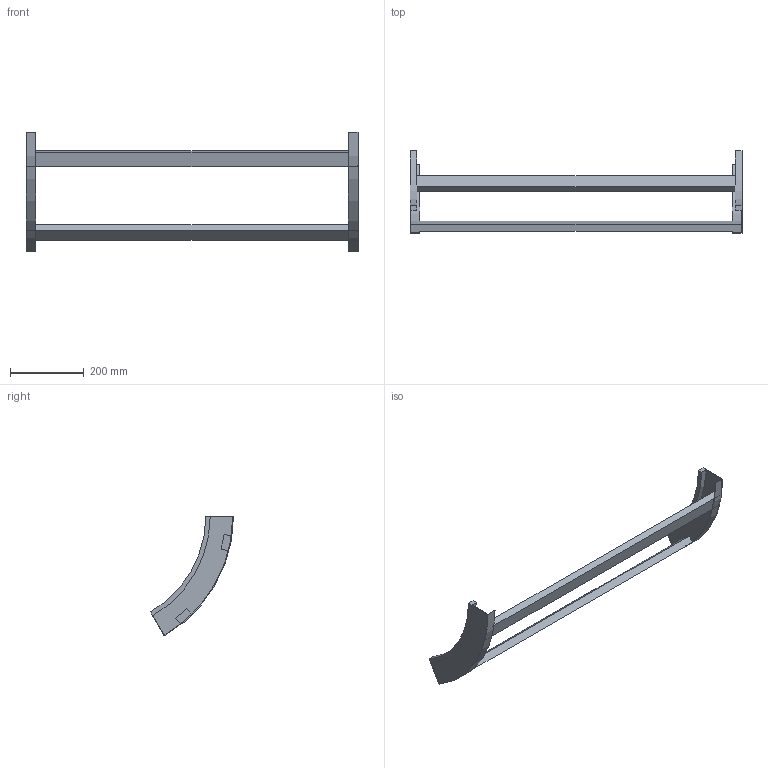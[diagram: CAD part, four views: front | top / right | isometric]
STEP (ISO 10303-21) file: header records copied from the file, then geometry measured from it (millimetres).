
FILE_DESCRIPTION (( 'STEP AP214' ), '1' );
FILE_NAME ('B2X40B3C900XX.step', '2025-03-20T10:18:12', ( '' ), ( '' ), 'SwSTEP 2.0', 'SolidWorks 2023', '' );
FILE_SCHEMA (( 'AUTOMOTIVE_DESIGN' ));
Length unit declared in the file: millimetre
Products named in the file (3): B2X40B3C900XX; TRAVERSINO_900; B2_LONGH.SALITA_60°_H75_R300
Assembly tree (4 placements, depth 2):
  B2X40B3C900XX
    B2_LONGH.SALITA_60°_H75_R300  x2
    TRAVERSINO_900  x2
Bounding box: 900 x 225 x 324.76 mm (x, y, z)
Volume: 1719763.8 mm3; surface area: 390169.7 mm2
Topology: 4 solids, 4 shells, 32 faces, 72 edges, 48 vertices
Faces by surface type: plane 24, cylinder 8
Entity records: 552 total; most frequent: DIRECTION 90, CARTESIAN_POINT 83, ORIENTED_EDGE 72, EDGE_CURVE 36, AXIS2_PLACEMENT_3D 31, VECTOR 28, LINE 28, VERTEX_POINT 24
